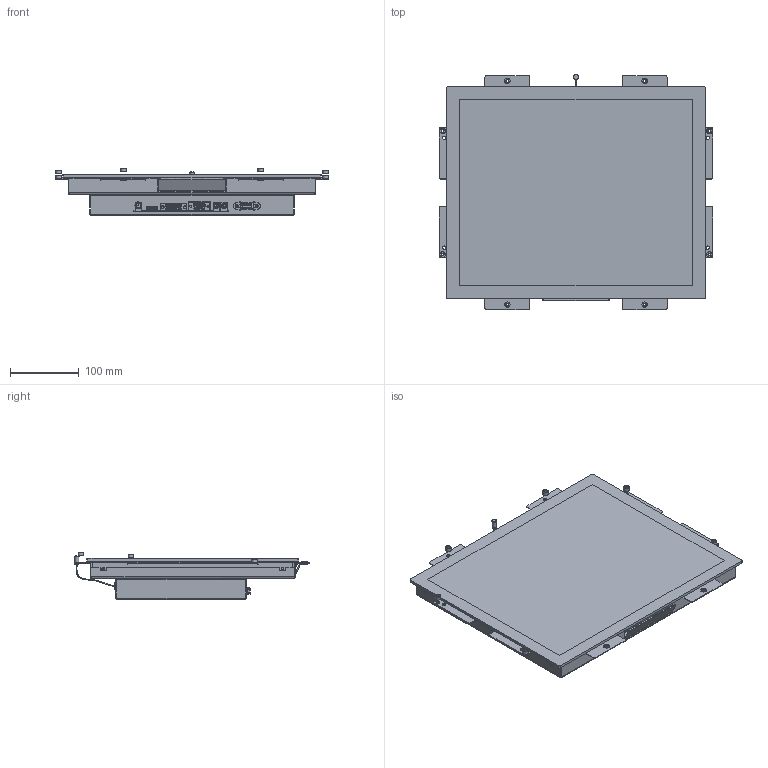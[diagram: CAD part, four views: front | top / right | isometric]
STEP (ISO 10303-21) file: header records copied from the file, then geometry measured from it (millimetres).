
FILE_DESCRIPTION (( 'STEP AP203' ), '1' );
FILE_NAME ('Z170-OF-MON Assembly.STEP', '2025-11-28T10:31:13', ( '' ), ( '' ), 'SwSTEP 2.0', 'SolidWorks 2025', '' );
FILE_SCHEMA (( 'CONFIG_CONTROL_DESIGN' ));
Length unit declared in the file: millimetre
Products named in the file (24): Z170-OF-MON Assembly; DVI-I_默认; Led driver 15-19; VGA D-Sub right-angle; HDMI_soldered; sn sticker^TFT-ITD-00 Backcover assembly; MPP-170-10 Mounting plate; MONB170-00 Assembly; SO-3,5M3-6-ZI Inpersafstandsteun; OSD-sticker; BC-ITD-10 Backcover; ITD-Lichtsensor; Led driver 21,5; USB panelmount_Défaut; Essentra 465907; ITD17KITT5HB01 display+sensor; Afstandbus 4,2x8x5; AD-kit 15-24''''; TFT-ITD-00 Backcover assembly_Monitor componenten; ITD-IO Input sticker; Led driver 24
Assembly tree (59 placements, depth 4):
  Z170-OF-MON Assembly
    MONB170-00 Assembly
      MPP-170-10 Mounting plate
        MPP-170-10 Mounting plate
        SO-3,5M3-6-ZI Inpersafstandsteun  x12
      ITD17KITT5HB01 display+sensor
    TFT-ITD-00 Backcover assembly_Monitor componenten
      BC-ITD-10 Backcover
        BC-ITD-10 Backcover
        SO-3,5M3-6-ZI Inpersafstandsteun  x18
      AD-kit 15-24''''
        AD-kit 15-24''''
        DVI-I_默认
        HDMI_soldered
        VGA D-Sub right-angle
      USB panelmount_Défaut
      sn sticker^TFT-ITD-00 Backcover assembly
      Led driver 15-19
      Led driver 21,5
      Led driver 24
      ITD-IO Input sticker
      OSD-sticker
    ITD-Lichtsensor
    Essentra 465907
    Afstandbus 4,2x8x5  x8
Bounding box: 398.5 x 343.13 x 69.21 mm (x, y, z)
Volume: 259491.7 mm3; surface area: 759121.4 mm2
Topology: 55 solids, 66 shells, 4112 faces, 11405 edges, 7572 vertices
Faces by surface type: plane 2942, cylinder 714, bspline 386, cone 46, torus 20, sphere 4
Full cylindrical faces by diameter (mm): 0.65 x15, 0.9 x15, 1 x1, 1.5 x1, 1.68 x2, 2.5 x30, 2.9 x2, 3 x4, 3.16 x2, 3.33 x2, 3.5 x29, 3.73 x2, 3.76 x2, 4 x4, 4.2 x8, 4.5 x6, 4.69 x2, 5 x12, 5.4 x30, 5.49 x30, 5.5 x4, 6 x2, 6.5 x2, 8 x16, 8.5 x1, 10 x1
Entity records: 143194 total; most frequent: CARTESIAN_POINT 44623, ORIENTED_EDGE 20063, DIRECTION 17658, EDGE_CURVE 10433, LINE 8120, VECTOR 8120, VERTEX_POINT 7041, AXIS2_PLACEMENT_3D 4769
